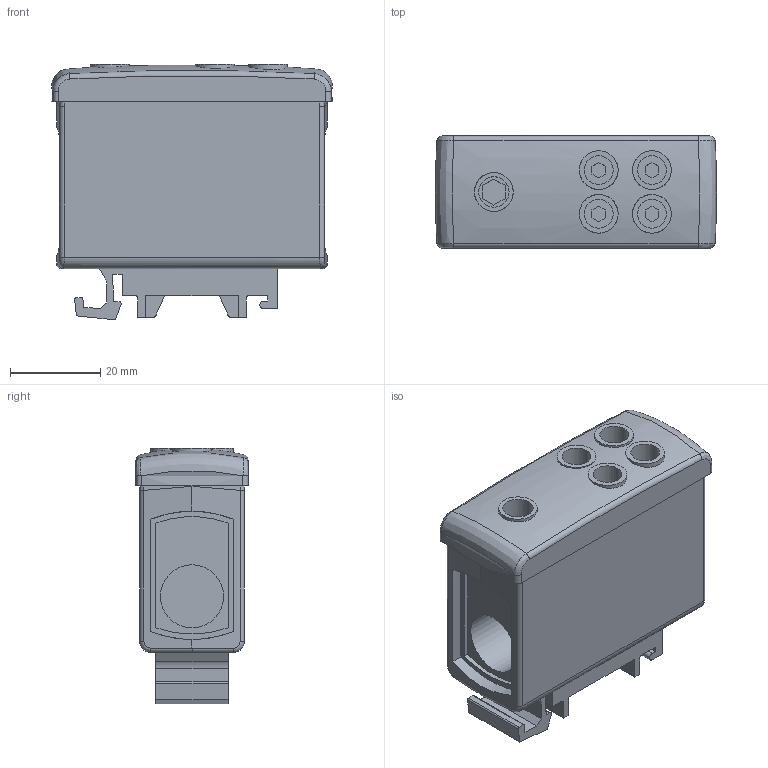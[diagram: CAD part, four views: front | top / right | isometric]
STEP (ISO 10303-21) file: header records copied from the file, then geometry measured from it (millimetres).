
FILE_DESCRIPTION(/* description */ ('Unknown'),/* implementation_level */ '2;1');
FILE_NAME(/* name */ 'utb 70_4x16',/* time_stamp */ '2021-04-01T13:19:17+02:00',/* author */ ('Unknown'),/* organization */ ('Unknown'),/* preprocessor_version */ 'ST-DEVELOPER v16.7',/* originating_system */ 'Solid Edge',/* authorisation */ 'Unknown');
FILE_SCHEMA (('AUTOMOTIVE_DESIGN {1 0 10303 214 3 1 1}'));
Length unit declared in the file: millimetre
Products named in the file (1): utb 70_4x16
Bounding box: 62.43 x 24.9 x 56.78 mm (x, y, z)
Volume: 58514.2 mm3; surface area: 14963.9 mm2
Topology: 1 solids, 1 shells, 183 faces, 458 edges, 301 vertices
Faces by surface type: plane 108, cylinder 54, bspline 18, torus 3
Full cylindrical faces by diameter (mm): 6.4 x4, 6.75 x1, 7 x4, 8.6 x5, 14 x1
Entity records: 5565 total; most frequent: CARTESIAN_POINT 1322, ORIENTED_EDGE 864, DIRECTION 840, EDGE_CURVE 432, VERTEX_POINT 290, AXIS2_PLACEMENT_3D 281, LINE 278, VECTOR 278
